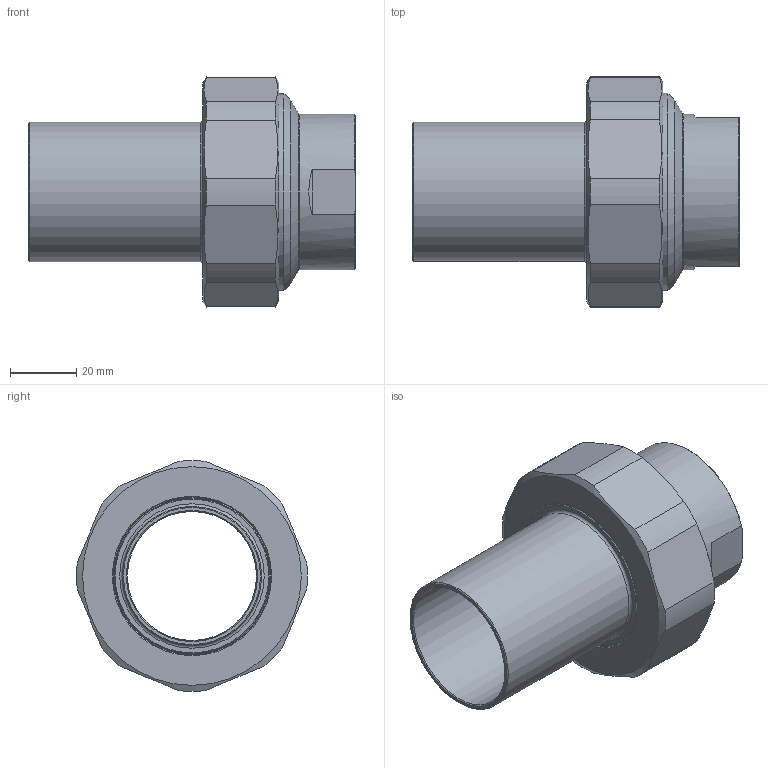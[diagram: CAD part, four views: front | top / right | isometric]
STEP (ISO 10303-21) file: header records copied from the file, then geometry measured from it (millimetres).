
FILE_DESCRIPTION(/* description */ (''),/* implementation_level */ '2;1');
FILE_NAME(/* name */ 'C:\Users\cad\Desktop\Zeichnungen neu von Ralph\Ganze Kupplungen\3D_Kupplung-R666-PE-G\3D_R666-PE-G-42-DN50-DN32_1711309475.stp',/* time_stamp */ '2021-07-16T09:26:40+02:00',/* author */ ('cad'),/* organization */ (''),/* preprocessor_version */ 'ST-DEVELOPER v18.1',/* originating_system */ 'Autodesk Inventor 2022',/* authorisation */ '');
FILE_SCHEMA (('AUTOMOTIVE_DESIGN { 1 0 10303 214 3 1 1 }'));
Length unit declared in the file: millimetre
Products named in the file (4): 3D_R666-PE-G-42-DN50-DN32_1711309475; 3D_R666-M-DN50_17113960; 3D_R666-G-DN32-DN50_17113550; 3D_R666-PE-42-DN50_17113483
Assembly tree (3 placements, depth 2):
  3D_R666-PE-G-42-DN50-DN32_1711309475
    3D_R666-M-DN50_17113960
    3D_R666-G-DN32-DN50_17113550
    3D_R666-PE-42-DN50_17113483
Bounding box: 98.5 x 69.68 x 69.65 mm (x, y, z)
Volume: 80757.6 mm3; surface area: 42874.6 mm2
Topology: 3 solids, 3 shells, 63 faces, 160 edges, 106 vertices
Faces by surface type: plane 21, cone 19, cylinder 18, torus 5
Full cylindrical faces by diameter (mm): 38.952 x1, 39 x1, 42 x1, 47 x2, 47.5 x1, 54.5 x1, 56.656 x1, 59.5 x1, 60 x1
Entity records: 2082 total; most frequent: CARTESIAN_POINT 376, DIRECTION 369, ORIENTED_EDGE 320, EDGE_CURVE 160, AXIS2_PLACEMENT_3D 159, VERTEX_POINT 106, CIRCLE 87, EDGE_LOOP 72
